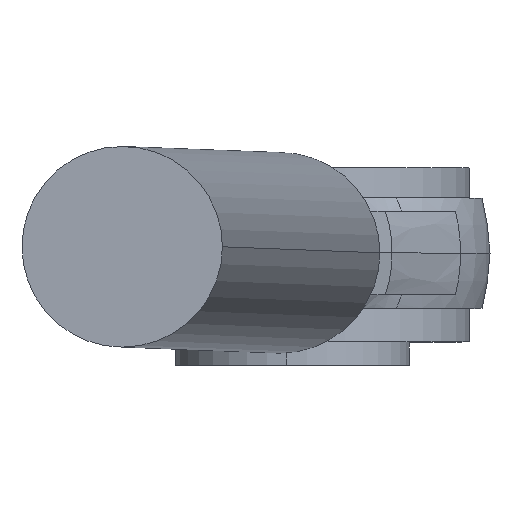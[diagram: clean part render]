
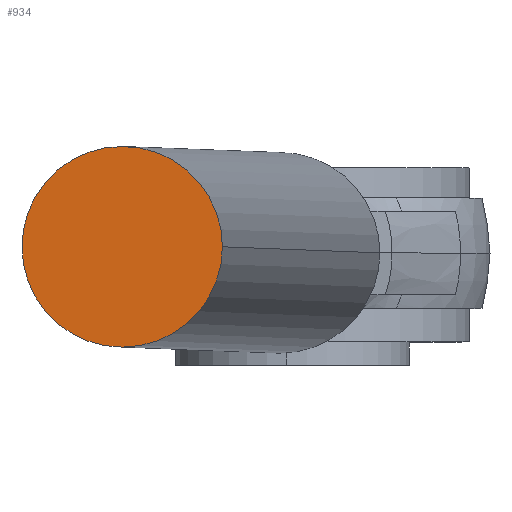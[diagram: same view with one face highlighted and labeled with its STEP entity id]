
A CAD part, top view. The second image highlights one B-rep face of the part: STEP entity #934.
In plain terms, the highlighted planar face has unit normal (-0.046, 0, 0.999).
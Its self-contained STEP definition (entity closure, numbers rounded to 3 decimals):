
#351 = DIRECTION ( 'NONE',  ( -0.999, 0., -0.046 ) ) ;
#354 = DIRECTION ( 'NONE',  ( -0.046, 0., 0.999 ) ) ;
#356 = CARTESIAN_POINT ( 'NONE',  ( 426.492, -375., 2437.827 ) ) ;
#366 = CIRCLE ( 'NONE', #1039, 30. ) ;
#665 = CARTESIAN_POINT ( 'NONE',  ( 426.492, -375., 2437.827 ) ) ;
#709 = ORIENTED_EDGE ( 'NONE', *, *, #1329, .T. ) ;
#741 = DIRECTION ( 'NONE',  ( -0.999, 0., -0.046 ) ) ;
#764 = DIRECTION ( 'NONE',  ( -0.046, 0., 0.999 ) ) ;
#790 = CIRCLE ( 'NONE', #1066, 30. ) ;
#839 = VERTEX_POINT ( 'NONE', #1106 ) ;
#934 = ADVANCED_FACE ( 'NONE', ( #1449 ), #1047, .T. ) ;
#942 = VERTEX_POINT ( 'NONE', #1009 ) ;
#946 = CARTESIAN_POINT ( 'NONE',  ( 426.492, -375., 2437.827 ) ) ;
#994 = EDGE_LOOP ( 'NONE', ( #709, #1038 ) ) ;
#1009 = CARTESIAN_POINT ( 'NONE',  ( 396.523, -375., 2436.459 ) ) ;
#1037 = DIRECTION ( 'NONE',  ( -0.046, 0., 0.999 ) ) ;
#1038 = ORIENTED_EDGE ( 'NONE', *, *, #1365, .T. ) ;
#1039 = AXIS2_PLACEMENT_3D ( 'NONE', #665, #764, #741 ) ;
#1042 = DIRECTION ( 'NONE',  ( -0.999, 0., -0.046 ) ) ;
#1047 = PLANE ( 'NONE',  #1186 ) ;
#1066 = AXIS2_PLACEMENT_3D ( 'NONE', #356, #354, #351 ) ;
#1106 = CARTESIAN_POINT ( 'NONE',  ( 456.46, -375., 2439.195 ) ) ;
#1186 = AXIS2_PLACEMENT_3D ( 'NONE', #946, #1037, #1042 ) ;
#1329 = EDGE_CURVE ( 'NONE', #942, #839, #790, .T. ) ;
#1365 = EDGE_CURVE ( 'NONE', #839, #942, #366, .T. ) ;
#1449 = FACE_OUTER_BOUND ( 'NONE', #994, .T. ) ;
